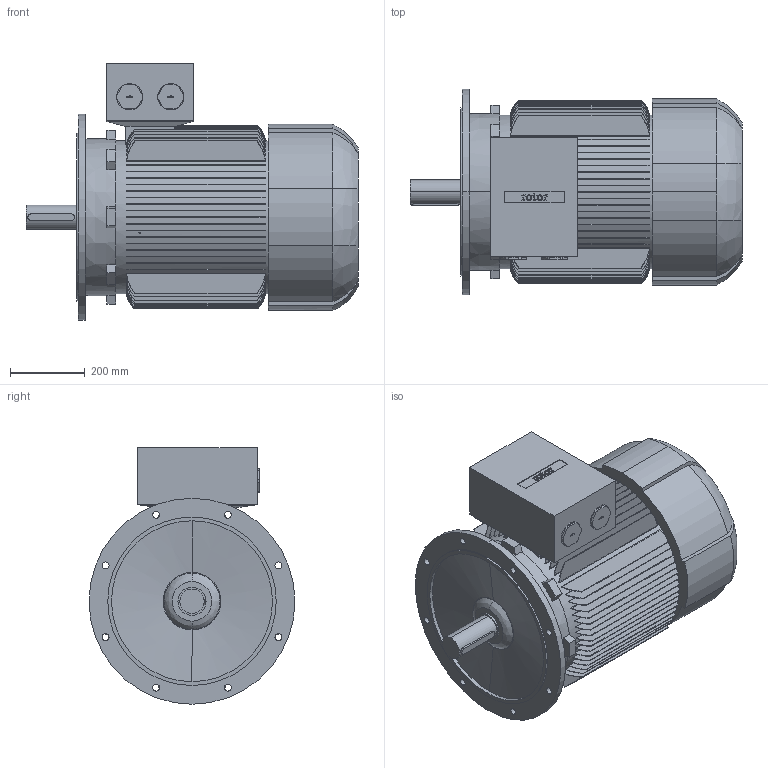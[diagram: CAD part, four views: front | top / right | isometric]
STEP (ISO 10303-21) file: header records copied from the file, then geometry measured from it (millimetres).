
FILE_DESCRIPTION (( 'STEP AP214' ), '1' );
FILE_NAME ('6RN250M04E32 IM3001.STEP', '2014-09-16T10:00:54', ( 'rbc_ict' ), ( 'REGAL' ), 'SwSTEP 2.0', 'SolidWorks 2012', '' );
FILE_SCHEMA (( 'AUTOMOTIVE_DESIGN' ));
Length unit declared in the file: millimetre
Products named in the file (1): 6RN250M04E32 IM3001
Bounding box: 887 x 550 x 685 mm (x, y, z)
Volume: 124967752 mm3; surface area: 4022803.5 mm2
Topology: 1 solids, 1 shells, 749 faces, 1976 edges, 1314 vertices
Faces by surface type: plane 422, bspline 193, cylinder 128, cone 6
Entity records: 30787 total; most frequent: CARTESIAN_POINT 13377, ORIENTED_EDGE 3952, DIRECTION 3082, EDGE_CURVE 1976, VERTEX_POINT 1314, AXIS2_PLACEMENT_3D 1061, VECTOR 960, LINE 960
